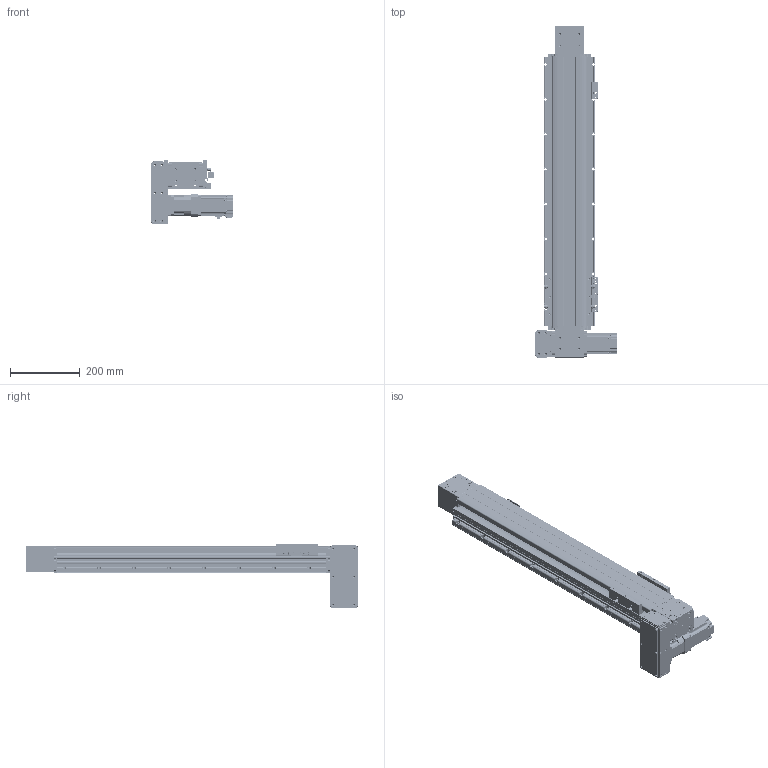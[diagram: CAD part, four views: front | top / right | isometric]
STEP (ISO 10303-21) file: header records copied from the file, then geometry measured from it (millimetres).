
FILE_DESCRIPTION(/* description */ (''),/* implementation_level */ '2;1');
FILE_NAME(/* name */ '\\192.168.0.160\disk1\HAN SHIN Master\B-설계부문\C-표준\B-2024년\BC02-표준도면\+로봇 개선표준도면\홈페이지 표준 도면\홈페이지 최종 작업 폴더\3D\HSB\HSB125\HSB125-D4G-N-0600-R.stp',/* time_stamp */ '2025-01-11T09:41:41+09:00',/* author */ ('user'),/* organization */ (''),/* preprocessor_version */ 'ST-DEVELOPER v18.1',/* originating_system */ 'Autodesk Inventor 2022',/* authorisation */ '');
FILE_SCHEMA (('AUTOMOTIVE_DESIGN { 1 0 10303 214 3 1 1 }'));
Products named in the file (32): HSB125-D4G-N-0500-R; BASE; REAR COVER; HSB125 FORNT HOUSUNG (Connecting); HSB160 SHAFT-1; HSB160 BEARING OVER; NSK_6205; HSB160 REAR SHAFT-2; REAR SHAFT--2; HSB125 REAR HOUSUNG; TENSION PLATE; HSB160 ARC COVER; UPCOVER; hsr_ftht_A-M6F_grease_nipple_joint; HR120 SENSOR DOG; NIPPLE CAP(신규); 6003ZZ; HSB125 TABLE (TEST); HG90STOPPER - 17L; HSB125 END COVER; SIDE COVER; SENSOR BRK(EE-SX674A); EE_SX674A; PGX62-H-1_3; hg-kr43_; HSB125 D; HSB125 D MOTOR PLATE; HR160 ACRYL COVER - 1; HSB125 D BELT COVER; HR160 ACRYL COVER - 1_1; MOTOR PLATE - 200W; HR160 ACRYL COVER - 1_2
Assembly tree (53 placements, depth 3):
  HSB125-D4G-N-0500-R
    BASE
    REAR COVER  x2
    HSB125 FORNT HOUSUNG (Connecting)
    HSB160 SHAFT-1
    HSB160 BEARING OVER
    NSK_6205  x2
    HSB160 REAR SHAFT-2
    REAR SHAFT--2
    HSB125 REAR HOUSUNG
    TENSION PLATE  x2
    HSB160 ARC COVER  x4
    HG90STOPPER - 17L  x4
    UPCOVER
    NIPPLE CAP(신규)  x4
    hsr_ftht_A-M6F_grease_nipple_joint  x4
    SENSOR BRK(EE-SX674A)  x3
    EE_SX674A  x3
    HR120 SENSOR DOG
    6003ZZ  x2
    HSB125 TABLE (TEST)
    HSB125 END COVER
    SIDE COVER  x2
    PGX62-H-1_3
    hg-kr43_
    HSB125 D
      HSB125 D MOTOR PLATE
      HR160 ACRYL COVER - 1
      HSB125 D BELT COVER
      HR160 ACRYL COVER - 1_1
      HR160 ACRYL COVER - 1_2  x2
      MOTOR PLATE - 200W
Bounding box: 233.3 x 950.5 x 184.5 mm (x, y, z)
Volume: 4088600.4 mm3; surface area: 1423138.2 mm2
Topology: 117 solids, 117 shells, 6743 faces, 18707 edges, 12318 vertices
Faces by surface type: plane 4879, cylinder 1351, cone 353, sphere 72, torus 61, bspline 27
Full cylindrical faces by diameter (mm): 2.459 x76, 3 x20, 3.242 x60, 3.3 x5, 3.4 x42, 3.5 x6, 4 x5, 4.134 x38, 4.2 x10, 4.5 x41, 4.917 x24, 5 x18, 5.5 x55, 5.6 x4, 5.8 x4, 5.9 x8, 6 x12, 6.5 x8, 6.647 x16, 7 x1, 7.5 x24, 8 x4, 8.5 x4, 9 x4, 9.2 x4, 9.5 x27, 12 x2, 14 x1, 14.2 x1, 15 x4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
Entity records: 152792 total; most frequent: CARTESIAN_POINT 30220, ORIENTED_EDGE 25302, DIRECTION 24435, EDGE_CURVE 12651, LINE 9453, VECTOR 9453, VERTEX_POINT 8413, AXIS2_PLACEMENT_3D 7491
